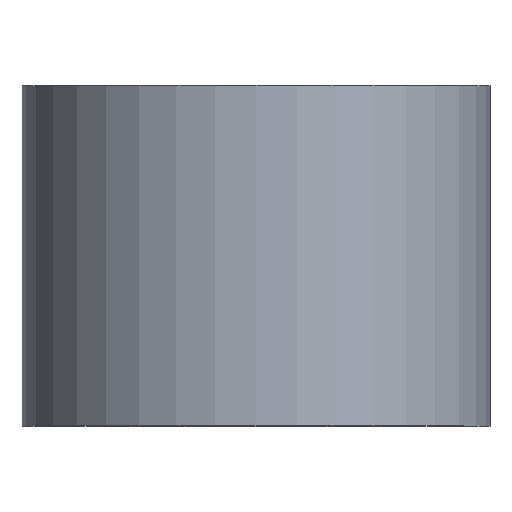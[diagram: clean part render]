
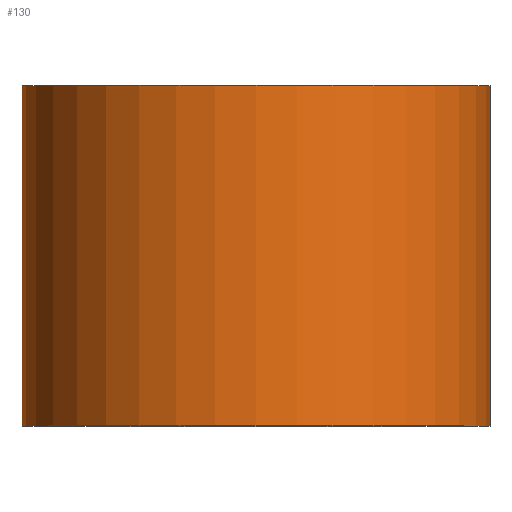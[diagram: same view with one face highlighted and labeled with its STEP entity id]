
A CAD part, top view. The second image highlights one B-rep face of the part: STEP entity #130.
In plain terms, the highlighted cylindrical face has radius 11 mm (diameter 22 mm), a partial arc.
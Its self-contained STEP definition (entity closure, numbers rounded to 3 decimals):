
#2 = VECTOR ( 'NONE', #210, 1000. ) ;
#12 = DIRECTION ( 'NONE',  ( -1., 0., 0. ) ) ;
#21 = ORIENTED_EDGE ( 'NONE', *, *, #271, .T. ) ;
#25 = EDGE_CURVE ( 'NONE', #79, #55, #290, .T. ) ;
#27 = ORIENTED_EDGE ( 'NONE', *, *, #63, .T. ) ;
#53 = AXIS2_PLACEMENT_3D ( 'NONE', #269, #97, #12 ) ;
#54 = VECTOR ( 'NONE', #78, 1000. ) ;
#55 = VERTEX_POINT ( 'NONE', #110 ) ;
#58 = CARTESIAN_POINT ( 'NONE',  ( 11., 0., 0. ) ) ;
#63 = EDGE_CURVE ( 'NONE', #79, #181, #281, .T. ) ;
#67 = FACE_OUTER_BOUND ( 'NONE', #92, .T. ) ;
#78 = DIRECTION ( 'NONE',  ( 0., 1., 0. ) ) ;
#79 = VERTEX_POINT ( 'NONE', #137 ) ;
#84 = CARTESIAN_POINT ( 'NONE',  ( 0., 16., 0. ) ) ;
#91 = CARTESIAN_POINT ( 'NONE',  ( -11., 0., 0. ) ) ;
#92 = EDGE_LOOP ( 'NONE', ( #27, #21, #224, #155 ) ) ;
#93 = AXIS2_PLACEMENT_3D ( 'NONE', #84, #125, #150 ) ;
#94 = DIRECTION ( 'NONE',  ( -1., 0., 0. ) ) ;
#97 = DIRECTION ( 'NONE',  ( 0., 1., 0. ) ) ;
#110 = CARTESIAN_POINT ( 'NONE',  ( -11., 16., 0. ) ) ;
#125 = DIRECTION ( 'NONE',  ( 0., 1., 0. ) ) ;
#130 = ADVANCED_FACE ( 'NONE', ( #67 ), #231, .T. ) ;
#137 = CARTESIAN_POINT ( 'NONE',  ( -11., 0., 0. ) ) ;
#150 = DIRECTION ( 'NONE',  ( -1., 0., 0. ) ) ;
#155 = ORIENTED_EDGE ( 'NONE', *, *, #25, .F. ) ;
#159 = CIRCLE ( 'NONE', #93, 11. ) ;
#181 = VERTEX_POINT ( 'NONE', #243 ) ;
#183 = VERTEX_POINT ( 'NONE', #265 ) ;
#185 = DIRECTION ( 'NONE',  ( 0., 1., 0. ) ) ;
#210 = DIRECTION ( 'NONE',  ( 0., 1., 0. ) ) ;
#216 = AXIS2_PLACEMENT_3D ( 'NONE', #287, #185, #94 ) ;
#224 = ORIENTED_EDGE ( 'NONE', *, *, #292, .F. ) ;
#231 = CYLINDRICAL_SURFACE ( 'NONE', #53, 11. ) ;
#243 = CARTESIAN_POINT ( 'NONE',  ( 11., 0., 0. ) ) ;
#265 = CARTESIAN_POINT ( 'NONE',  ( 11., 16., 0. ) ) ;
#269 = CARTESIAN_POINT ( 'NONE',  ( 0., 0., 0. ) ) ;
#271 = EDGE_CURVE ( 'NONE', #181, #183, #289, .T. ) ;
#281 = CIRCLE ( 'NONE', #216, 11. ) ;
#287 = CARTESIAN_POINT ( 'NONE',  ( 0., 0., 0. ) ) ;
#289 = LINE ( 'NONE', #58, #54 ) ;
#290 = LINE ( 'NONE', #91, #2 ) ;
#292 = EDGE_CURVE ( 'NONE', #55, #183, #159, .T. ) ;
